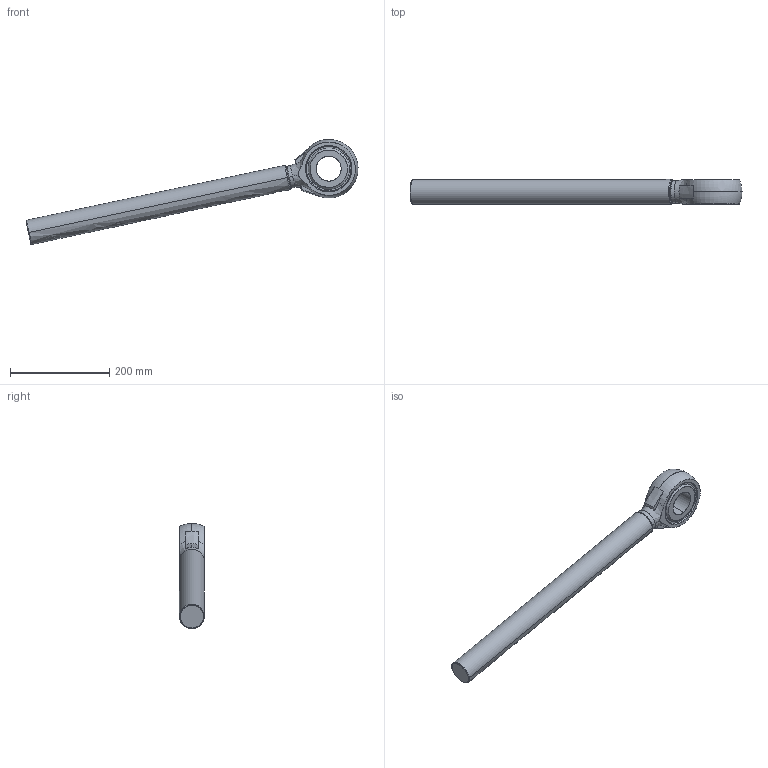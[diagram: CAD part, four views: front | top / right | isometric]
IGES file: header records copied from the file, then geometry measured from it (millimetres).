
Start section: SolidWorks IGES file using analytic representation for surfaces
Global section: file name: C:\Data\SAP_DOC\LW\IRB 6720\IRB6720_160kg-320_OC_01_SW_J\IRB6720_160kg-320_OC_01_IGES_J\IRB6720_160kg-320_OC_00_ROD_CAD.igs; native system: SolidWorks 2024; preprocessor: SolidWorks 2024; author: SEJOVAS3; date: 260610.124056; units: millimetre
Bounding box: 669.33 x 50.5 x 211.8 mm (x, y, z)
Surface area: 135243.1 mm2 (no closed solid volume)
Topology: 0 solids, 0 shells, 58 faces, 1469 edges, 1468 vertices
Faces by surface type: revolution 30, bspline 28
